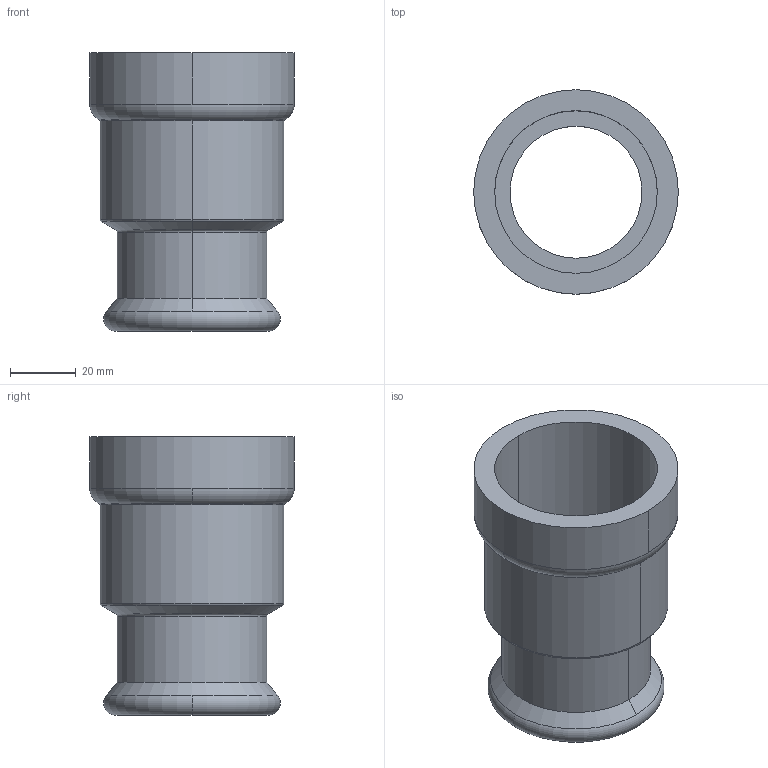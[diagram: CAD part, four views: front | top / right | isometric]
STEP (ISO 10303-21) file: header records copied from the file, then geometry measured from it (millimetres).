
FILE_DESCRIPTION(('Creo Elements/Direct Modeling STEP Export'),'2;1');
FILE_NAME('C9441_1-1-2_42.stp','2020-07-20T14:06:17',(''),(''),'PTC Creo Elements/Direct Modeling STEP processor for AP214 (Solid Model)','PTC Creo Elements/Direct Modeling 19.0C 15-Aug-2015 (C) Parametric Technology GmbH','');
FILE_SCHEMA(('AUTOMOTIVE_DESIGN { 1 0 10303 214 1 1 1 1 }'));
Length unit declared in the file: millimetre
Products named in the file (1): C9441_1-1-2_42
Bounding box: 62 x 62 x 84.35 mm (x, y, z)
Volume: 51147.3 mm3; surface area: 29936.5 mm2
Topology: 1 solids, 1 shells, 30 faces, 71 edges, 45 vertices
Faces by surface type: cylinder 12, torus 10, plane 4, cone 4
Entity records: 780 total; most frequent: ORIENTED_EDGE 142, DIRECTION 132, CARTESIAN_POINT 119, EDGE_CURVE 71, AXIS2_PLACEMENT_3D 58, VERTEX_POINT 45, EDGE_LOOP 34, FACE_OUTER_BOUND 30
